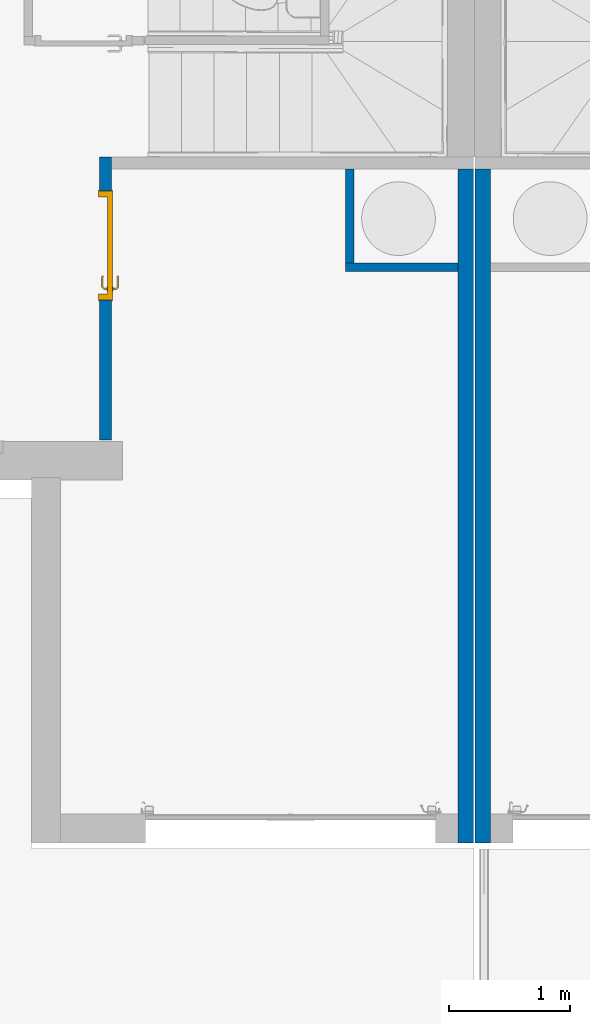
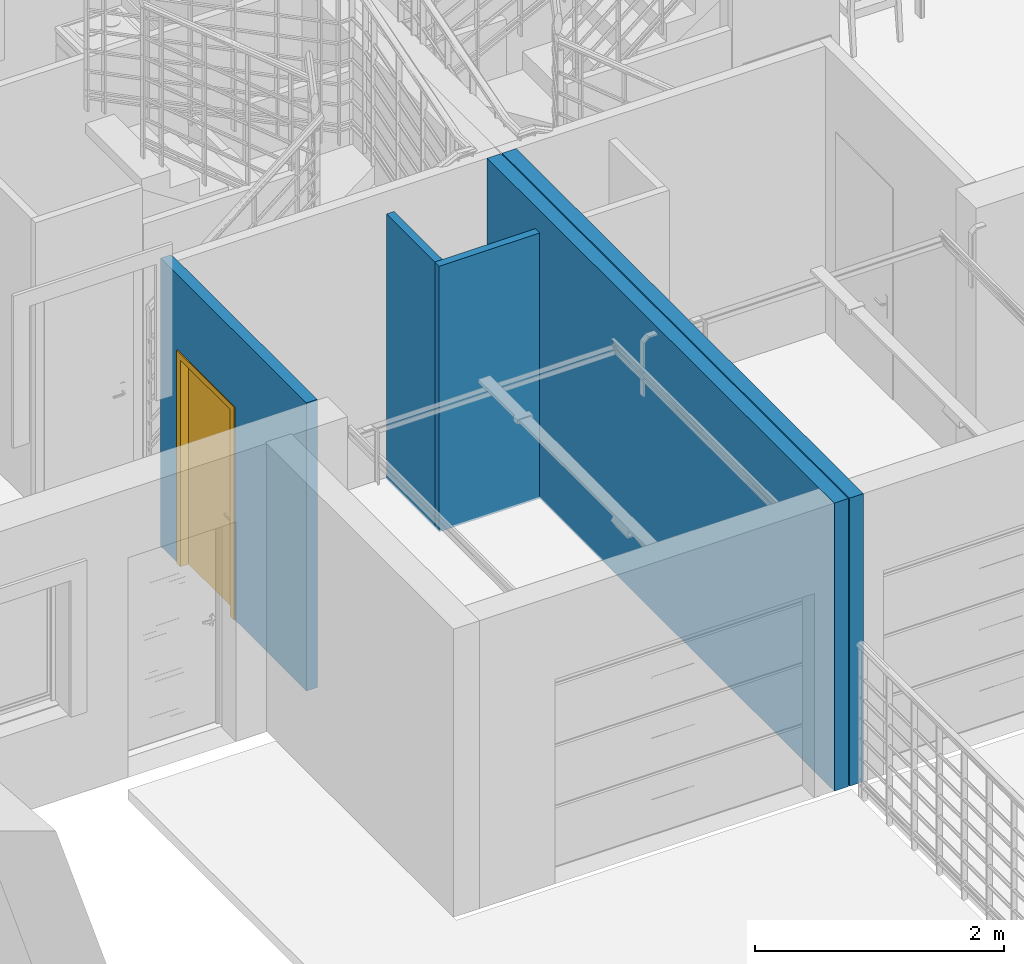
# One storey, part 5 of 30: 5 walls, 1 door, 1 opening.
"""IFC2X3 building model written with IfcOpenShell, lengths in metres."""

from ifc_helpers import new_model, entity, si_unit, converted_unit, derived_unit, direction, frame, frame_2d, origin, place, context, subcontext, project, spatial, rectangle, extrude, faceted_brep, source, transform, mapped, material, material_list, layer, layer_set, layer_usage, type_object, type_shapes, element, fill, save


model = new_model("IFC2X3")

# Units and contexts
model_context = context("Model", 3, precision=1e-05, world=origin(), true_north=direction((6.12303176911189e-17, 1.0)))
body_context = subcontext(model_context, "Body", "Model", "MODEL_VIEW")
ifc_project = project(units=[si_unit("LENGTHUNIT", "METRE"), si_unit("AREAUNIT", "SQUARE_METRE"), si_unit("VOLUMEUNIT", "CUBIC_METRE"), converted_unit("PLANEANGLEUNIT", "DEGREE", entity("IfcRatioMeasure", 0.0174532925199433), si_unit("PLANEANGLEUNIT", "RADIAN"), dimensions=[0, 0, 0, 0, 0, 0, 0]), si_unit("MASSUNIT", "GRAM", prefix="KILO"), derived_unit("MASSDENSITYUNIT", [(si_unit("MASSUNIT", "GRAM", prefix="KILO"), 1), (si_unit("LENGTHUNIT", "METRE"), -3)]), si_unit("TIMEUNIT", "SECOND"), si_unit("FREQUENCYUNIT", "HERTZ"), si_unit("THERMODYNAMICTEMPERATUREUNIT", "DEGREE_CELSIUS"), derived_unit("THERMALTRANSMITTANCEUNIT", [(si_unit("MASSUNIT", "GRAM", prefix="KILO"), 1), (si_unit("THERMODYNAMICTEMPERATUREUNIT", "KELVIN"), -1), (si_unit("TIMEUNIT", "SECOND"), -3)]), derived_unit("VOLUMETRICFLOWRATEUNIT", [(si_unit("LENGTHUNIT", "METRE"), 3), (si_unit("TIMEUNIT", "SECOND"), -1)]), si_unit("ELECTRICCURRENTUNIT", "AMPERE"), si_unit("ELECTRICVOLTAGEUNIT", "VOLT"), si_unit("POWERUNIT", "WATT"), si_unit("FORCEUNIT", "NEWTON", prefix="KILO"), si_unit("ILLUMINANCEUNIT", "LUX"), si_unit("LUMINOUSFLUXUNIT", "LUMEN"), si_unit("LUMINOUSINTENSITYUNIT", "CANDELA"), derived_unit("USERDEFINED", [(si_unit("MASSUNIT", "GRAM", prefix="KILO"), -1), (si_unit("LENGTHUNIT", "METRE"), -2), (si_unit("TIMEUNIT", "SECOND"), 3), (si_unit("LUMINOUSFLUXUNIT", "LUMEN"), 1)]), derived_unit("LINEARVELOCITYUNIT", [(si_unit("LENGTHUNIT", "METRE"), 1), (si_unit("TIMEUNIT", "SECOND"), -1)]), si_unit("PRESSUREUNIT", "PASCAL"), derived_unit("USERDEFINED", [(si_unit("LENGTHUNIT", "METRE"), -2), (si_unit("MASSUNIT", "GRAM", prefix="KILO"), 1), (si_unit("TIMEUNIT", "SECOND"), -2)])], contexts=[model_context])

# Site, building, storey
site_placement = place(None, origin())
site = spatial("IfcSite", under=ifc_project, at=site_placement, Name="Surface", CompositionType="ELEMENT")
building_placement = place(site_placement, origin())
building = spatial("IfcBuilding", under=site, at=building_placement, CompositionType="ELEMENT")
storey_placement = place(building_placement, origin())
storey = spatial("IfcBuildingStorey", under=building, at=storey_placement, Name="Plan des fondations  Maisons 1 et 2", CompositionType="ELEMENT", Elevation=0.0)

# Wall, opening, door
ifc_material_1 = material(Name="Peinture - Blanc")
ifc_layer_1 = layer(ifc_material_1, 0.1)
ifc_layer_set_1 = layer_set([ifc_layer_1], Name="Mur de base:Int.  Platre 100 mm en blanc 2")
ifc_layer_usage_1 = layer_usage(ifc_layer_set_1, "AXIS2", "POSITIVE", -0.05)
wall_type_1 = type_object("IfcWallType", Name="Mur de base:Int.  Platre 100 mm en blanc 2", PredefinedType="STANDARD", material=ifc_layer_set_1)
wall_1_placement = place(storey_placement, frame((65.7846263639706, 80.2177566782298, 0.0), z_axis=(0.0, 0.0, 1.0), x_axis=(0.0, 1.0, 0.0)))
wall_1 = element("IfcWallStandardCase", 1, at=wall_1_placement, inside=storey, type_object=wall_type_1, material=ifc_layer_usage_1, Name="Mur de base:Int.  Platre 100 mm en blanc 2", ObjectType="Mur de base:Int.  Platre 100 mm en blanc 2", context=body_context, shape_type="SweptSolid", body=[
    extrude(rectangle(XDim=2.33999999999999, YDim=0.0999999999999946, at=frame_2d((1.16999999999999, -2.81372147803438e-15), x_axis=(-1.0, 0.0))), origin(), (0.0, 0.0, 1.0), 2.82),
])
opening_placement = place(wall_1_placement, frame((2.05999999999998, 0.0500000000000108, 0.0)))
opening = element("IfcOpeningElement", 2, at=opening_placement, cuts=wall_1, Name="FR_Simple (R):83 x 204 - (80):1", ObjectType="Opening", context=body_context, shape_type="SweptSolid", body=[
    extrude(rectangle(XDim=2.075, YDim=0.9, at=frame_2d((1.0375, 0.45), x_axis=(1.0, 0.0))), frame((0.0, 0.0, 0.0), z_axis=(0.0, -1.0, 0.0), x_axis=(0.0, 0.0, 1.0)), (0.0, 0.0, 1.0), 0.1),
])
ifc_material_2 = material(Name="Poignée Porte")
ifc_material_3 = material(Name="Dormants Portes")
ifc_material_4 = material(Name="Panneaux Portes")
ifc_material_list_1 = material_list([ifc_material_2, ifc_material_3, ifc_material_4])
ifc_material_list_2 = material_list([ifc_material_2, ifc_material_3, ifc_material_4])
door_style = type_object("IfcDoorStyle", Name="83 x 204 - (80)", ConstructionType="NOTDEFINED", OperationType="SINGLE_SWING_LEFT", ParameterTakesPrecedence=False, Sizeable=False, material=ifc_material_list_2)
shared_shape = source(origin(), body_context, "Body", "Brep", [
    faceted_brep([(0.1003527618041, -0.0130000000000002, 0.766003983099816), (0.109999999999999, -0.0130000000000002, 0.770000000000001), (0.109999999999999, -0.0130000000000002, 0.980000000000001), (0.1003527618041, -0.0130000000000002, 0.983996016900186), (0.0899999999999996, -0.0130000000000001, 0.985358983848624), (0.0796472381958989, -0.0130000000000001, 0.983996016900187), (0.0699999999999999, -0.0130000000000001, 0.980000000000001), (0.0699999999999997, -0.0130000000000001, 0.770000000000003), (0.0796472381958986, -0.0130000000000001, 0.766003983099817), (0.0899999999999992, -0.0130000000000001, 0.764641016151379), (0.1003527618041, -0.00800000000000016, 0.983996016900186), (0.109999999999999, -0.00800000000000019, 0.980000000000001), (0.109999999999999, -0.00800000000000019, 0.770000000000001), (0.1003527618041, -0.00800000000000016, 0.766003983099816), (0.0899999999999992, -0.00800000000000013, 0.764641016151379), (0.0796472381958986, -0.00800000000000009, 0.766003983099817), (0.0699999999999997, -0.00800000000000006, 0.770000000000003), (0.0699999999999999, -0.00800000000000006, 0.980000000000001), (0.0796472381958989, -0.00800000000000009, 0.983996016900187), (0.0899999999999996, -0.00800000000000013, 0.985358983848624)], [[[0, 1, 2, 3, 4, 5, 6, 7, 8, 9]], [[10, 11, 12, 13, 14, 15, 16, 17, 18, 19]], [[16, 15, 8, 7]], [[8, 15, 14, 9]], [[14, 13, 0, 9]], [[13, 12, 1, 0]], [[2, 1, 12, 11]], [[11, 10, 3, 2]], [[3, 10, 19, 4]], [[19, 18, 5, 4]], [[18, 17, 6, 5]], [[7, 6, 17, 16]]]),
    faceted_brep([(0.1003527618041, 0.0319999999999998, 0.766003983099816), (0.109999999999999, 0.0319999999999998, 0.770000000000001), (0.109999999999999, 0.0319999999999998, 0.980000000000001), (0.1003527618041, 0.0319999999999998, 0.983996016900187), (0.0899999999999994, 0.0319999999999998, 0.985358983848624), (0.0796472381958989, 0.0319999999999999, 0.983996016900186), (0.0699999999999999, 0.0319999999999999, 0.980000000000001), (0.0700000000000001, 0.0319999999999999, 0.770000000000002), (0.0796472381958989, 0.0319999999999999, 0.766003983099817), (0.0899999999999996, 0.0319999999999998, 0.764641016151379), (0.1003527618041, 0.0369999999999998, 0.983996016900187), (0.109999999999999, 0.0369999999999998, 0.980000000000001), (0.11, 0.0369999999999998, 0.770000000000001), (0.1003527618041, 0.0369999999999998, 0.766003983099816), (0.0899999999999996, 0.0369999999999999, 0.764641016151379), (0.079647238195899, 0.0369999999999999, 0.766003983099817), (0.0699999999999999, 0.0369999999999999, 0.770000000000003), (0.0699999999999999, 0.0369999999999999, 0.980000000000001), (0.0796472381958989, 0.0369999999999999, 0.983996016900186), (0.0899999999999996, 0.0369999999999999, 0.985358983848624)], [[[0, 1, 2, 3, 4, 5, 6, 7, 8, 9]], [[10, 11, 12, 13, 14, 15, 16, 17, 18, 19]], [[11, 10, 3, 2]], [[3, 10, 19, 4]], [[19, 18, 5, 4]], [[18, 17, 6, 5]], [[7, 6, 17, 16]], [[16, 15, 8, 7]], [[8, 15, 14, 9]], [[14, 13, 0, 9]], [[13, 12, 1, 0]], [[2, 1, 12, 11]]]),
    faceted_brep([(0.0879747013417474, -0.0130000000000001, 0.907780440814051), (0.092025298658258, -0.0130000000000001, 0.907780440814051), (0.0960000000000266, -0.0130000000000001, 0.906999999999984), (0.0960000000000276, -0.0130000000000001, 0.893000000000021), (0.0920252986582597, -0.0130000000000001, 0.89221955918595), (0.0879747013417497, -0.0130000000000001, 0.892219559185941), (0.0839999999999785, -0.0130000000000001, 0.892999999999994), (0.0839999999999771, -0.0130000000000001, 0.90699999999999), (0.0839999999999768, -0.0406509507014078, 0.906999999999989), (0.0879747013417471, -0.0390045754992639, 0.907780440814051), (0.10402358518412, -0.0550534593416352, 0.907780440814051), (0.10570139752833, -0.0510028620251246, 0.907780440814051), (0.0920252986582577, -0.0373267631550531, 0.907780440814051), (0.19852181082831, -0.0473891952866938, 0.90778044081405), (0.195657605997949, -0.0445249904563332, 0.90778044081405), (0.189179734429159, -0.0510028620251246, 0.90778044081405), (0.19085754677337, -0.0550534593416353, 0.90778044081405), (0.096000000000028, -0.0356803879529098, 0.90699999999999), (0.0960000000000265, -0.0356803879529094, 0.893000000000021), (0.0920252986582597, -0.0373267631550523, 0.89221955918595), (0.105701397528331, -0.0510028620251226, 0.89221955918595), (0.104023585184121, -0.0550534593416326, 0.89221955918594), (0.0879747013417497, -0.0390045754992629, 0.89221955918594), (0.195657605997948, -0.044524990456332, 0.89221955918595), (0.198521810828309, -0.0473891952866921, 0.89221955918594), (0.190857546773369, -0.0550534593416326, 0.89221955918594), (0.189179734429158, -0.0510028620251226, 0.89221955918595), (0.0839999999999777, -0.0406509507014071, 0.892999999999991), (0.102377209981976, -0.0590281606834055, 0.906999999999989), (0.107347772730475, -0.0470281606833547, 0.90699999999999), (0.107347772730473, -0.0470281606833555, 0.893000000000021), (0.102377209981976, -0.0590281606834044, 0.892999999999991), (0.142307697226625, -0.0590281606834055, 0.906999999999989), (0.147440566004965, -0.053182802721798, 0.907878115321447), (0.192503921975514, -0.0590281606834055, 0.906999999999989), (0.147440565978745, -0.0470281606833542, 0.90699999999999), (0.187533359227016, -0.0470281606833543, 0.906999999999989), (0.187533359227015, -0.0470281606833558, 0.89300000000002), (0.147440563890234, -0.0470281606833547, 0.893000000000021), (0.14744056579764, -0.0531828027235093, 0.892121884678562), (0.192503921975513, -0.0590281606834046, 0.892999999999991), (0.152573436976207, -0.0590281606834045, 0.892999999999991), (0.192847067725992, -0.0417144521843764, 0.906999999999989), (0.201332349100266, -0.0501997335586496, 0.906999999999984), (0.201332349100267, -0.0501997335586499, 0.892999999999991), (0.192847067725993, -0.0417144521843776, 0.893000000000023)], [[[0, 1, 2, 3, 4, 5, 6, 7]], [[8, 9, 0, 7]], [[9, 10, 11, 12, 1, 0]], [[13, 14, 15, 16]], [[12, 17, 2, 1]], [[3, 2, 17, 18]], [[18, 19, 4, 3]], [[19, 20, 21, 22, 5, 4]], [[23, 24, 25, 26]], [[22, 27, 6, 5]], [[7, 6, 27, 8]], [[28, 10, 9, 8]], [[11, 29, 17, 12]], [[18, 17, 29, 30]], [[30, 20, 19, 18]], [[21, 31, 27, 22]], [[8, 27, 31, 28]], [[32, 33, 10]], [[33, 32, 16]], [[10, 28, 32]], [[34, 16, 32]], [[33, 35, 11]], [[11, 10, 33]], [[15, 35, 33]], [[29, 11, 35]], [[35, 15, 36]], [[15, 33, 16]], [[30, 29, 35, 36, 37, 38]], [[20, 38, 39]], [[25, 40, 41]], [[31, 21, 41]], [[41, 21, 39]], [[39, 38, 26]], [[26, 25, 39]], [[38, 20, 30]], [[37, 26, 38]], [[20, 39, 21]], [[41, 39, 25]], [[28, 31, 41, 40, 34, 32]], [[42, 14, 13, 43, 44, 24, 23, 45]], [[43, 13, 16, 34]], [[14, 42, 36, 15]], [[37, 36, 42, 45]], [[45, 23, 26, 37]], [[24, 44, 40, 25]], [[34, 40, 44, 43]]]),
    faceted_brep([(0.0879747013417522, 0.0369999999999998, 0.892219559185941), (0.0920252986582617, 0.0369999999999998, 0.892219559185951), (0.0960000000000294, 0.0369999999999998, 0.893000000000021), (0.0960000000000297, 0.0369999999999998, 0.90699999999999), (0.0920252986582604, 0.0369999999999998, 0.907780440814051), (0.0879747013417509, 0.0369999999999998, 0.907780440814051), (0.0839999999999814, 0.0369999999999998, 0.90699999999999), (0.083999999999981, 0.0369999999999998, 0.892999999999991), (0.0960000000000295, 0.0594852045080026, 0.893000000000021), (0.0960000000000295, 0.0594852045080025, 0.90699999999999), (0.0920252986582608, 0.0611315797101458, 0.907780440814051), (0.105838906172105, 0.0749451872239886, 0.907780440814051), (0.104161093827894, 0.0789957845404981, 0.907780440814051), (0.0879747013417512, 0.0628093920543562, 0.907780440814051), (0.195684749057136, 0.0684673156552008, 0.907780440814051), (0.198548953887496, 0.071331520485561, 0.907780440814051), (0.190884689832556, 0.0789957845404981, 0.907780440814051), (0.189206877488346, 0.0749451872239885, 0.907780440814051), (0.0839999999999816, 0.0644557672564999, 0.90699999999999), (0.0839999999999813, 0.0644557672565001, 0.892999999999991), (0.0879747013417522, 0.0628093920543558, 0.892219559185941), (0.104161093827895, 0.0789957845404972, 0.892219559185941), (0.105838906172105, 0.0749451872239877, 0.892219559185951), (0.0920252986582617, 0.0611315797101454, 0.892219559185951), (0.198548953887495, 0.07133152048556, 0.89221955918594), (0.195684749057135, 0.0684673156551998, 0.89221955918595), (0.189206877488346, 0.0749451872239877, 0.89221955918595), (0.190884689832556, 0.0789957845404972, 0.89221955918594), (0.107485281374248, 0.0709704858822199, 0.893000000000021), (0.107485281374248, 0.0709704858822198, 0.90699999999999), (0.102514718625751, 0.0829704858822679, 0.90699999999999), (0.102514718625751, 0.0829704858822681, 0.892999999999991), (0.147522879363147, 0.0709704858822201, 0.89300000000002), (0.187560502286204, 0.0709704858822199, 0.89300000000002), (0.187560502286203, 0.0709704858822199, 0.90699999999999), (0.147522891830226, 0.0709704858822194, 0.90699999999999), (0.147522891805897, 0.0771249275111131, 0.907878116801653), (0.1925310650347, 0.0829704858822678, 0.90699999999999), (0.152600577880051, 0.0829704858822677, 0.90699999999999), (0.1925310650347, 0.082970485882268, 0.892999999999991), (0.142445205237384, 0.0829704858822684, 0.892999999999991), (0.147522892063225, 0.0771249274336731, 0.892121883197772), (0.19287421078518, 0.0656567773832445, 0.89300000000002), (0.201359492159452, 0.0741420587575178, 0.892999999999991), (0.201359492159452, 0.0741420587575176, 0.90699999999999), (0.19287421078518, 0.0656567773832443, 0.90699999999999)], [[[0, 1, 2, 3, 4, 5, 6, 7]], [[3, 2, 8, 9]], [[9, 10, 4, 3]], [[10, 11, 12, 13, 5, 4]], [[14, 15, 16, 17]], [[13, 18, 6, 5]], [[7, 6, 18, 19]], [[19, 20, 0, 7]], [[20, 21, 22, 23, 1, 0]], [[24, 25, 26, 27]], [[23, 8, 2, 1]], [[9, 8, 28, 29]], [[29, 11, 10, 9]], [[12, 30, 18, 13]], [[19, 18, 30, 31]], [[31, 21, 20, 19]], [[22, 28, 8, 23]], [[28, 32, 33, 34, 35, 29]], [[11, 35, 36]], [[16, 37, 38]], [[30, 12, 38]], [[38, 12, 36]], [[36, 35, 17]], [[17, 16, 36]], [[35, 11, 29]], [[34, 17, 35]], [[11, 36, 12]], [[38, 36, 16]], [[31, 30, 38, 37, 39, 40]], [[40, 41, 21]], [[41, 40, 27]], [[21, 31, 40]], [[39, 27, 40]], [[41, 32, 22]], [[22, 21, 41]], [[26, 32, 41]], [[28, 22, 32]], [[32, 26, 33]], [[26, 41, 27]], [[42, 25, 24, 43, 44, 15, 14, 45]], [[34, 33, 42, 45]], [[45, 14, 17, 34]], [[15, 44, 37, 16]], [[39, 37, 44, 43]], [[43, 24, 27, 39]], [[25, 42, 33, 26]]]),
    faceted_brep([(0.0, 0.0, 0.0), (0.0, 0.10000000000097, 0.0), (-0.00999999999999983, 0.10000000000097, 0.0), (-0.00999999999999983, 0.108000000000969, 0.0), (0.0499999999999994, 0.108000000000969, 0.0), (0.0499999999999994, 0.032, 0.0), (0.0349999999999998, 0.032, 0.0), (0.0349999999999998, -0.00799999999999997, 0.0), (-0.00999999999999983, -0.00799999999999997, 0.0), (-0.00999999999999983, 0.0, 0.0), (0.0, 0.0, 2.075), (0.0, 0.10000000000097, 2.075), (0.9, 0.10000000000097, 2.075), (0.9, 0.10000000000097, 0.0), (0.91, 0.10000000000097, 0.0), (0.91, 0.10000000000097, 2.085), (-0.00999999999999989, 0.10000000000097, 2.085), (-0.00999999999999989, 0.108000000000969, 2.085), (0.91, 0.108000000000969, 2.085), (0.91, 0.108000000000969, 0.0), (0.850000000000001, 0.108000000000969, 0.0), (0.850000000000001, 0.108000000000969, 2.025), (0.0499999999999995, 0.108000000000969, 2.025), (0.0499999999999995, 0.032, 2.025), (0.850000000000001, 0.032, 2.025), (0.850000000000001, 0.032, 0.0), (0.865, 0.032, 0.0), (0.865, 0.032, 2.04), (0.0349999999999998, 0.032, 2.04), (0.0349999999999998, -0.00799999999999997, 2.04), (0.865, -0.00799999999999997, 2.04), (0.865, -0.00799999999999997, 0.0), (0.91, -0.00799999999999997, 0.0), (0.91, -0.00799999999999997, 2.085), (-0.00999999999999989, -0.00799999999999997, 2.085), (-0.00999999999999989, 0.0, 2.085), (0.91, 0.0, 2.085), (0.91, 0.0, 0.0), (0.9, 0.0, 0.0), (0.9, 0.0, 2.075)], [[[0, 1, 2, 3, 4, 5, 6, 7, 8, 9]], [[1, 0, 10, 11]], [[2, 1, 11, 12, 13, 14, 15, 16]], [[3, 2, 16, 17]], [[4, 3, 17, 18, 19, 20, 21, 22]], [[5, 4, 22, 23]], [[6, 5, 23, 24, 25, 26, 27, 28]], [[7, 6, 28, 29]], [[8, 7, 29, 30, 31, 32, 33, 34]], [[9, 8, 34, 35]], [[0, 9, 35, 36, 37, 38, 39, 10]], [[11, 10, 39, 12]], [[17, 16, 15, 18]], [[23, 22, 21, 24]], [[29, 28, 27, 30]], [[35, 34, 33, 36]], [[38, 37, 32, 31, 26, 25, 20, 19, 14, 13]], [[12, 39, 38, 13]], [[18, 15, 14, 19]], [[24, 21, 20, 25]], [[30, 27, 26, 31]], [[36, 33, 32, 37]]]),
    faceted_brep([(0.0349999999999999, -0.00799999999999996, 2.04), (0.0349999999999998, -0.00799999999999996, 0.0), (0.865, -0.00799999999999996, 0.0), (0.865, -0.00799999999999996, 2.04), (0.0349999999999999, 0.032, 2.04), (0.865, 0.032, 2.04), (0.865, 0.032, 0.0), (0.0349999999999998, 0.032, 0.0)], [[[0, 1, 2, 3]], [[4, 5, 6, 7]], [[1, 0, 4, 7]], [[2, 1, 7, 6]], [[3, 2, 6, 5]], [[0, 3, 5, 4]]]),
])
type_shapes(door_style, [shared_shape])
door_placement = place(opening_placement, frame((-0.899999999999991, -0.0999999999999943, 0.0)))
door = element("IfcDoor", 3, at=door_placement, inside=storey, type_object=door_style, material=ifc_material_list_1, Name="FR_Simple (R):83 x 204 - (80)", ObjectType="FR_Simple (R):83 x 204 - (80)", OverallHeight=2.075, OverallWidth=0.900000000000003, context=body_context, shape_type="MappedRepresentation", body=[
    mapped(shared_shape, transform((0.0, 0.0, 0.0), scale=1.0)),
])
fill(opening, door)

# Walls
ifc_material_5 = material(Name="Enduit blanc cassé2")
ifc_layer_2 = layer(ifc_material_5, 0.015)
ifc_material_6 = material(Name="Parpaing")
ifc_layer_3 = layer(ifc_material_6, 0.1)
ifc_layer_4 = layer(ifc_material_5, 0.015)
ifc_layer_set_2 = layer_set([ifc_layer_2, ifc_layer_3, ifc_layer_4], Name="Mur de base:Ext. Parpaing 10 + 2 x 1.5 2")
ifc_layer_usage_2 = layer_usage(ifc_layer_set_2, "AXIS2", "NEGATIVE", 0.065)
wall_type_2 = type_object("IfcWallType", Name="Mur de base:Ext. Parpaing 10 + 2 x 1.5 2", PredefinedType="STANDARD", material=ifc_layer_set_2)
wall_2_placement = place(storey_placement, frame((68.9046263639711, 82.4577566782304, 0.0), z_axis=(0.0, 0.0, 1.0), x_axis=(0.0, -1.0, 0.0)))
element("IfcWallStandardCase", 4, at=wall_2_placement, inside=storey, type_object=wall_type_2, material=ifc_layer_usage_2, Name="Mur de base:Ext. Parpaing 10 + 2 x 1.5 2", ObjectType="Mur de base:Ext. Parpaing 10 + 2 x 1.5 2", context=body_context, shape_type="SweptSolid", body=[
    extrude(rectangle(XDim=5.56999999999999, YDim=0.130000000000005, at=frame_2d((2.78499999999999, 0.0), x_axis=(-1.0, 0.0))), origin(), (0.0, 0.0, 1.0), 2.82),
])
ifc_layer_usage_3 = layer_usage(ifc_layer_set_2, "AXIS2", "POSITIVE", -0.065)
wall_3_placement = place(storey_placement, frame((68.7646263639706, 82.4577566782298, 0.0), z_axis=(0.0, 0.0, 1.0), x_axis=(0.0, -1.0, 0.0)))
element("IfcWallStandardCase", 5, at=wall_3_placement, inside=storey, type_object=wall_type_2, material=ifc_layer_usage_3, Name="Mur de base:Ext. Parpaing 10 + 2 x 1.5 2", ObjectType="Mur de base:Ext. Parpaing 10 + 2 x 1.5 2", context=body_context, shape_type="SweptSolid", body=[
    extrude(rectangle(XDim=5.57000000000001, YDim=0.130000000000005, at=frame_2d((2.785, -1.01307850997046e-15), x_axis=(-1.0, 0.0))), origin(), (0.0, 0.0, 1.0), 2.82),
])
ifc_layer_5 = layer(ifc_material_1, 0.07)
ifc_layer_set_3 = layer_set([ifc_layer_5], Name="Mur de base:Int.  Platre 70 mm en blanc")
ifc_layer_usage_4 = layer_usage(ifc_layer_set_3, "AXIS2", "POSITIVE", -0.035)
wall_type_3 = type_object("IfcWallType", Name="Mur de base:Int.  Platre 70 mm en blanc", PredefinedType="STANDARD", material=ifc_layer_set_3)
wall_4_placement = place(storey_placement, frame((68.6996263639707, 81.6477566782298, 0.0), z_axis=(0.0, 0.0, 1.0), x_axis=(-1.0, 0.0, 0.0)))
element("IfcWallStandardCase", 6, at=wall_4_placement, inside=storey, type_object=wall_type_3, material=ifc_layer_usage_4, Name="Mur de base:Int.  Platre 70 mm en blanc", ObjectType="Mur de base:Int.  Platre 70 mm en blanc", context=body_context, shape_type="SweptSolid", body=[
    extrude(rectangle(XDim=0.930000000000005, YDim=0.0699999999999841, at=frame_2d((0.465000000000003, -3.06352165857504e-15), x_axis=(-1.0, 0.0))), origin(), (0.0, 0.0, 1.0), 2.6),
])
ifc_layer_usage_5 = layer_usage(ifc_layer_set_3, "AXIS2", "POSITIVE", -0.035)
wall_5_placement = place(storey_placement, frame((67.8046263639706, 81.6827566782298, 0.0), z_axis=(0.0, 0.0, 1.0), x_axis=(0.0, 1.0, 0.0)))
element("IfcWallStandardCase", 7, at=wall_5_placement, inside=storey, type_object=wall_type_3, material=ifc_layer_usage_5, Name="Mur de base:Int.  Platre 70 mm en blanc", ObjectType="Mur de base:Int.  Platre 70 mm en blanc", context=body_context, shape_type="SweptSolid", body=[
    extrude(rectangle(XDim=0.774999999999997, YDim=0.0700000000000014, at=frame_2d((0.387499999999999, 1.78329573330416e-15), x_axis=(-1.0, 0.0))), origin(), (0.0, 0.0, 1.0), 2.6),
])

save(model, "model.ifc")
